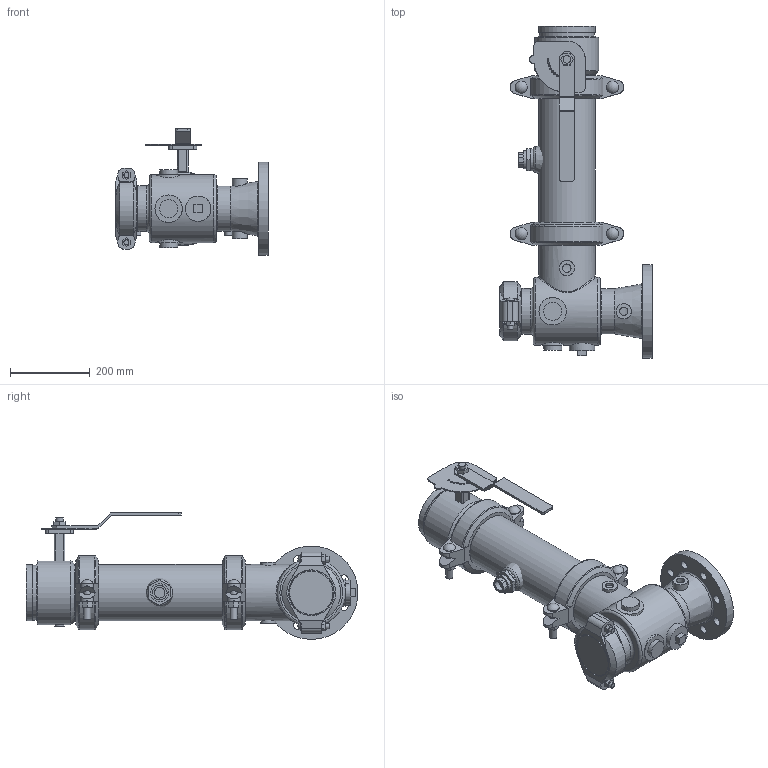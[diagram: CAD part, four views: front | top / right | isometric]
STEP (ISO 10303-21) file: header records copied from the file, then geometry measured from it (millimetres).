
FILE_DESCRIPTION(/* description */ ('VIC SVI PUMP DROP HORZ S/391 (OGSxFLG)','CAx-IF Rec.Pracs.---Representation and Presentation of Product Manufacturing Information (PMI)---4.0---2014-10-13'),/* implementation_level */ '2;1');
FILE_NAME(/* name */ 'C:\Users\kkamble\AppData\Roaming\Autodesk\ApplicationPlugins\Back Up\Victaulic_PN10_Series 391 (OGSxFLG)\Victaulic_PN10_Series 391 (OGSxFLG)_05.0x04.0 (125x100).stp',/* time_stamp */ '2020-11-26T23:44:17+05:00',/* author */ ('kkamble'),/* organization */ ('Victaulic'),/* preprocessor_version */ 'ST-DEVELOPER v17.2',/* originating_system */ 'Autodesk Inventor 2019',/* authorisation */ '');
FILE_SCHEMA (('AP242_MANAGED_MODEL_BASED_3D_ENGINEERING_MIM_LF { 1 0 10303 442 1 1 4 }'));
Length unit declared in the file: inch
Products named in the file (9): 391-05.0x04.0; 731D-05.0x04.0; 731D-05.0x04.0_1; 731D-05.0; 07-04.0; PIPE-05.0; 177N-05.0; 761-05.0; 923-04.0x0.75
Assembly tree (9 placements, depth 3):
  391-05.0x04.0
    731D-05.0x04.0
      731D-05.0x04.0_1
      731D-05.0
      07-04.0
    177N-05.0  x2
    PIPE-05.0
    761-05.0
    923-04.0x0.75
Bounding box: 381 x 830.83 x 317.25 mm (x, y, z)
Volume: 8209218.5 mm3; surface area: 1387274.5 mm2
Topology: 8 solids, 11 shells, 532 faces, 1378 edges, 930 vertices
Faces by surface type: plane 298, cylinder 191, cone 19, torus 17, sphere 6, bspline 1
Full cylindrical faces by diameter (mm): 4.826 x10, 8.636 x4, 12.7 x4, 17.78 x4, 19.05 x2, 20.955 x4, 21.006 x8, 22.225 x2, 22.86 x1, 26.67 x1, 30.48 x4, 38.1 x4, 45.72 x3, 45.974 x2, 55.118 x1, 55.626 x1, 63.5 x1, 84.074 x1, 90.678 x1, 96.52 x1, 101.6 x1, 107.95 x1, 110.084 x2, 113.03 x1, 114.3 x5, 121.412 x1, 128.194 x2, 128.6 x2, 137.033 x5, 141.3 x13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
Entity records: 15629 total; most frequent: CARTESIAN_POINT 3543, DIRECTION 2485, ORIENTED_EDGE 2276, EDGE_CURVE 1138, AXIS2_PLACEMENT_3D 948, VERTEX_POINT 771, LINE 589, VECTOR 589
